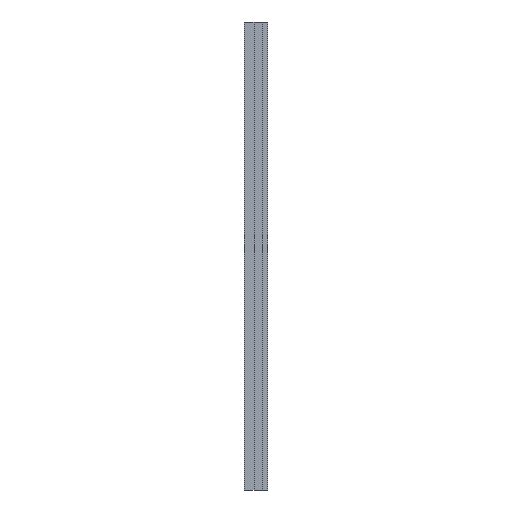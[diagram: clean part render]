
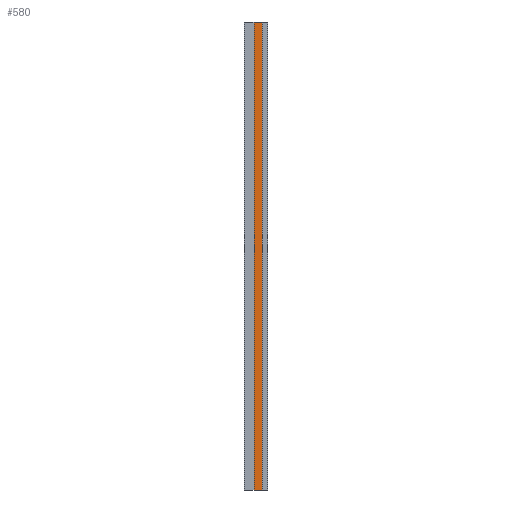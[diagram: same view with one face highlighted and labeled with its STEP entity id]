
A CAD part, left-side view. The second image highlights one B-rep face of the part: STEP entity #580.
In plain terms, the highlighted planar face has unit normal (-1, 0, 0).
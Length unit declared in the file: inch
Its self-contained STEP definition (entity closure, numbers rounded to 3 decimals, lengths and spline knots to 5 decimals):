
#27=PLANE('',#670);
#50=FACE_OUTER_BOUND('',#82,.T.);
#82=EDGE_LOOP('',(#405,#406,#407,#408));
#113=LINE('',#907,#177);
#115=LINE('',#913,#179);
#116=LINE('',#915,#180);
#117=LINE('',#916,#181);
#177=VECTOR('',#730,0.3937);
#179=VECTOR('',#736,0.3937);
#180=VECTOR('',#737,0.3937);
#181=VECTOR('',#738,0.3937);
#262=VERTEX_POINT('',#904);
#263=VERTEX_POINT('',#906);
#265=VERTEX_POINT('',#912);
#266=VERTEX_POINT('',#914);
#318=EDGE_CURVE('',#262,#263,#113,.T.);
#321=EDGE_CURVE('',#262,#265,#115,.T.);
#322=EDGE_CURVE('',#265,#266,#116,.T.);
#323=EDGE_CURVE('',#263,#266,#117,.T.);
#405=ORIENTED_EDGE('',*,*,#318,.F.);
#406=ORIENTED_EDGE('',*,*,#321,.T.);
#407=ORIENTED_EDGE('',*,*,#322,.T.);
#408=ORIENTED_EDGE('',*,*,#323,.F.);
#580=ADVANCED_FACE('',(#50),#27,.T.);
#670=AXIS2_PLACEMENT_3D('',#911,#734,#735);
#730=DIRECTION('',(0.,0.,1.));
#734=DIRECTION('center_axis',(-1.,0.,0.));
#735=DIRECTION('ref_axis',(0.,-1.,0.));
#736=DIRECTION('',(0.,-1.,0.));
#737=DIRECTION('',(0.,0.,1.));
#738=DIRECTION('',(0.,-1.,0.));
#904=CARTESIAN_POINT('',(1.7611,-0.025,0.));
#906=CARTESIAN_POINT('',(1.7611,-0.025,120.));
#907=CARTESIAN_POINT('',(1.7611,-0.025,0.));
#911=CARTESIAN_POINT('Origin',(1.7611,-0.0179,0.));
#912=CARTESIAN_POINT('',(1.7611,-2.97,0.));
#913=CARTESIAN_POINT('',(1.7611,-0.0179,0.));
#914=CARTESIAN_POINT('',(1.7611,-2.97,120.));
#915=CARTESIAN_POINT('',(1.7611,-2.97,0.));
#916=CARTESIAN_POINT('',(1.7611,-0.0179,120.));
